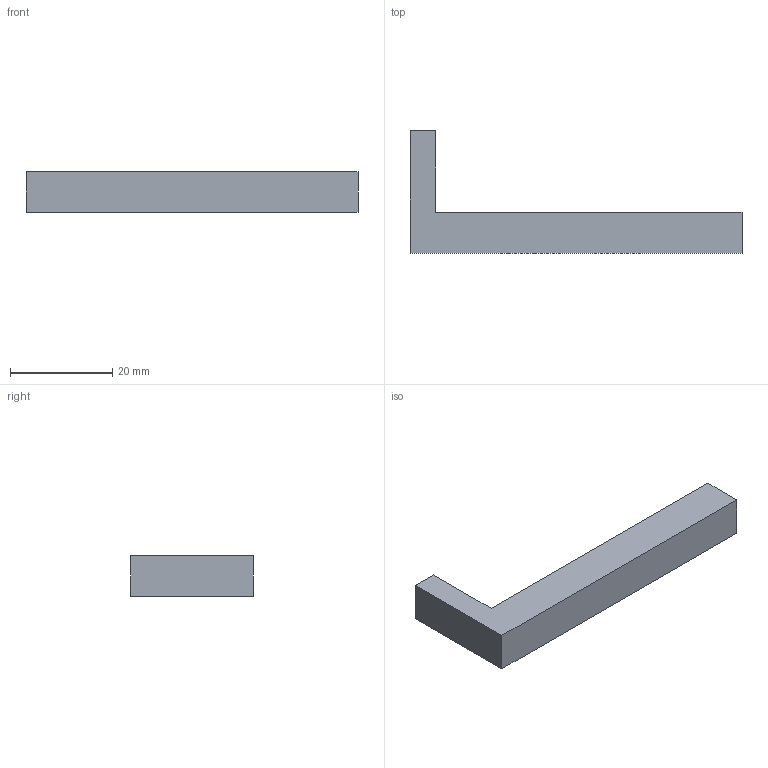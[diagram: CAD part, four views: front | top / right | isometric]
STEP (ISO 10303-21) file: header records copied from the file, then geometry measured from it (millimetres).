
FILE_DESCRIPTION(('FreeCAD Model'),'2;1');
FILE_NAME('Open CASCADE Shape Model','2026-09-11T17:58:35',( '' ),( '' ),'Open CASCADE STEP processor 7.8','FreeCAD','Unknown');
FILE_SCHEMA(('AUTOMOTIVE_DESIGN { 1 0 10303 214 1 1 1 1 }'));
Length unit declared in the file: millimetre
Products named in the file (1): Open CASCADE STEP translator 7.8 11
Bounding box: 65 x 24 x 8 mm (x, y, z)
Volume: 4800 mm3; surface area: 2624 mm2
Topology: 1 solids, 1 shells, 8 faces, 18 edges, 12 vertices
Faces by surface type: plane 8
Entity records: 232 total; most frequent: CARTESIAN_POINT 39, DIRECTION 36, ORIENTED_EDGE 36, EDGE_CURVE 18, LINE 18, VECTOR 18, VERTEX_POINT 12, AXIS2_PLACEMENT_3D 9
